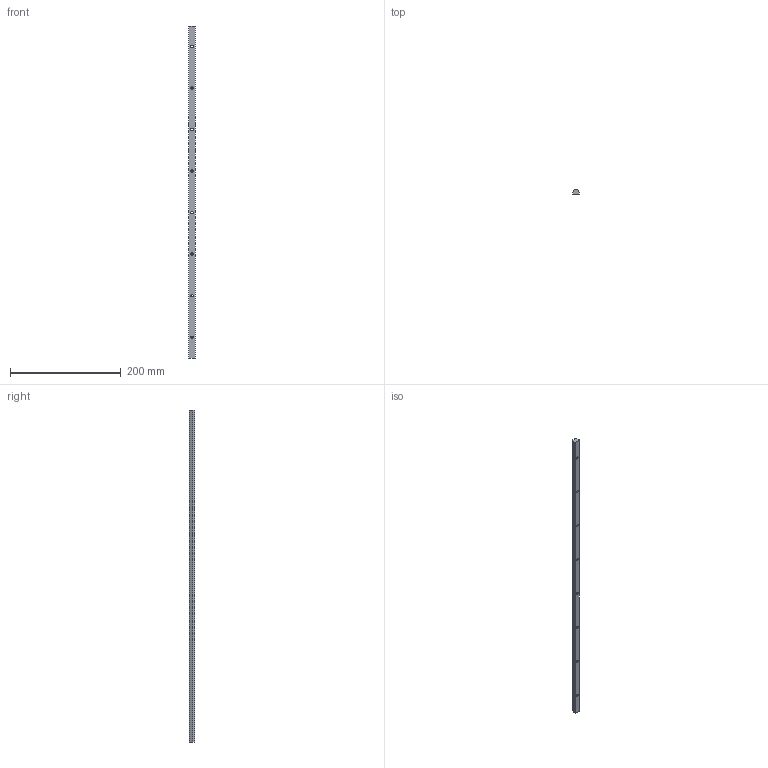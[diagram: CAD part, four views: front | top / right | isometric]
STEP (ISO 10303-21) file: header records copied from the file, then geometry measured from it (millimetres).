
FILE_DESCRIPTION (( 'STEP AP203' ), '1' );
FILE_NAME ('KWU16-12.step', '2020-03-23T07:53:51', ( '' ), ( '' ), 'SwSTEP 2.0', 'SolidWorks 2019', '' );
FILE_SCHEMA (( 'CONFIG_CONTROL_DESIGN' ));
Length unit declared in the file: millimetre
Products named in the file (2): KWU16-12
Bounding box: 11 x 9.12 x 599.5 mm (x, y, z)
Volume: 48895.3 mm3; surface area: 22732.4 mm2
Topology: 1 solids, 1 shells, 25 faces, 77 edges, 46 vertices
Faces by surface type: cylinder 16, plane 9
Entity records: 1026 total; most frequent: CARTESIAN_POINT 198, ORIENTED_EDGE 154, DIRECTION 131, EDGE_CURVE 77, VERTEX_POINT 46, LINE 45, VECTOR 45, AXIS2_PLACEMENT_3D 43
